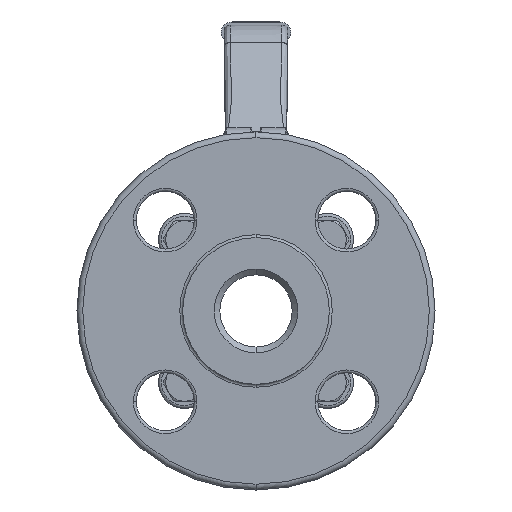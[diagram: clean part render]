
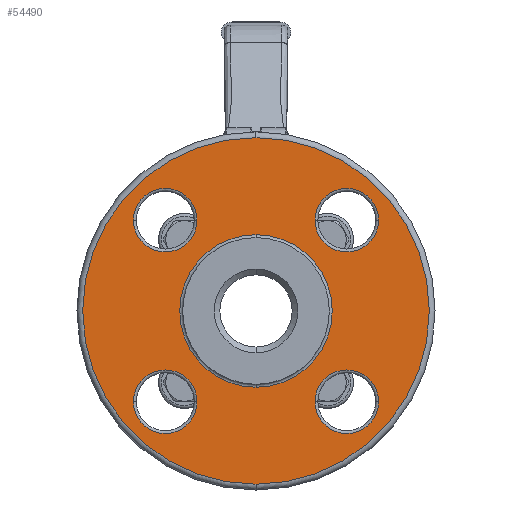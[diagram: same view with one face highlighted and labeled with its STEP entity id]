
A CAD part, left-side view. The second image highlights one B-rep face of the part: STEP entity #54490.
In plain terms, the highlighted planar face has unit normal (-1, 0, 0).
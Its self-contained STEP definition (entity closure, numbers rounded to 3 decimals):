
#55=CARTESIAN_POINT('',(-73.35,0.,0.));
#56=DIRECTION('',(-1.,0.,0.));
#57=DIRECTION('',(0.,0.,1.));
#58=AXIS2_PLACEMENT_3D('',#55,#56,#57);
#75=CARTESIAN_POINT('',(-73.35,0.,0.));
#76=DIRECTION('',(1.,0.,0.));
#77=DIRECTION('',(0.,0.,-1.));
#78=AXIS2_PLACEMENT_3D('',#75,#76,#77);
#98=CARTESIAN_POINT('',(-73.35,0.,0.));
#99=DIRECTION('',(1.,0.,0.));
#100=DIRECTION('',(0.,0.,1.));
#101=AXIS2_PLACEMENT_3D('',#98,#99,#100);
#44591=CARTESIAN_POINT('',(-73.35,31.431,31.431));
#44592=DIRECTION('',(1.,0.,0.));
#44593=DIRECTION('',(0.,1.,0.));
#44594=AXIS2_PLACEMENT_3D('',#44591,#44592,#44593);
#44606=CARTESIAN_POINT('',(-73.35,31.431,31.431));
#44607=DIRECTION('',(1.,0.,0.));
#44608=DIRECTION('',(0.,-1.,0.));
#44609=AXIS2_PLACEMENT_3D('',#44606,#44607,#44608);
#44659=CARTESIAN_POINT('',(-73.35,-31.431,31.431));
#44660=DIRECTION('',(1.,0.,0.));
#44661=DIRECTION('',(0.,-1.,0.));
#44662=AXIS2_PLACEMENT_3D('',#44659,#44660,#44661);
#44674=CARTESIAN_POINT('',(-73.35,-31.431,31.431));
#44675=DIRECTION('',(1.,0.,0.));
#44676=DIRECTION('',(0.,1.,0.));
#44677=AXIS2_PLACEMENT_3D('',#44674,#44675,#44676);
#44727=CARTESIAN_POINT('',(-73.35,-31.431,-31.431));
#44728=DIRECTION('',(1.,0.,0.));
#44729=DIRECTION('',(0.,1.,0.));
#44730=AXIS2_PLACEMENT_3D('',#44727,#44728,#44729);
#44742=CARTESIAN_POINT('',(-73.35,-31.431,-31.431));
#44743=DIRECTION('',(1.,0.,0.));
#44744=DIRECTION('',(0.,-1.,0.));
#44745=AXIS2_PLACEMENT_3D('',#44742,#44743,#44744);
#44795=CARTESIAN_POINT('',(-73.35,31.431,-31.431));
#44796=DIRECTION('',(1.,0.,0.));
#44797=DIRECTION('',(0.,-1.,0.));
#44798=AXIS2_PLACEMENT_3D('',#44795,#44796,#44797);
#44810=CARTESIAN_POINT('',(-73.35,31.431,-31.431));
#44811=DIRECTION('',(1.,0.,0.));
#44812=DIRECTION('',(0.,1.,0.));
#44813=AXIS2_PLACEMENT_3D('',#44810,#44811,#44812);
#44829=CARTESIAN_POINT('',(-73.35,0.,0.));
#44830=DIRECTION('',(-1.,0.,0.));
#44831=DIRECTION('',(0.,0.,-1.));
#44832=AXIS2_PLACEMENT_3D('',#44829,#44830,#44831);
#44860=CARTESIAN_POINT('',(-73.35,0.,-60.));
#44861=CARTESIAN_POINT('',(-73.35,0.,60.));
#44862=VERTEX_POINT('',#44860);
#44863=VERTEX_POINT('',#44861);
#45852=CARTESIAN_POINT('',(-73.35,42.431,31.431));
#45853=CARTESIAN_POINT('',(-73.35,20.431,31.431));
#45854=VERTEX_POINT('',#45852);
#45855=VERTEX_POINT('',#45853);
#45868=CARTESIAN_POINT('',(-73.35,-42.431,31.431));
#45869=CARTESIAN_POINT('',(-73.35,-20.431,31.431));
#45870=VERTEX_POINT('',#45868);
#45871=VERTEX_POINT('',#45869);
#45884=CARTESIAN_POINT('',(-73.35,-20.431,-31.431));
#45885=CARTESIAN_POINT('',(-73.35,-42.431,-31.431));
#45886=VERTEX_POINT('',#45884);
#45887=VERTEX_POINT('',#45885);
#45900=CARTESIAN_POINT('',(-73.35,42.431,-31.431));
#45901=CARTESIAN_POINT('',(-73.35,20.431,-31.431));
#45902=VERTEX_POINT('',#45900);
#45903=VERTEX_POINT('',#45901);
#46632=CARTESIAN_POINT('',(-73.35,0.,26.4));
#46633=CARTESIAN_POINT('',(-73.35,0.,-26.4));
#46634=VERTEX_POINT('',#46632);
#46635=VERTEX_POINT('',#46633);
#54450=CARTESIAN_POINT('',(-73.35,0.,0.));
#54451=DIRECTION('',(-1.,0.,0.));
#54452=DIRECTION('',(0.,0.,1.));
#54453=AXIS2_PLACEMENT_3D('',#54450,#54451,#54452);
#54454=PLANE('',#54453);
#54456=ORIENTED_EDGE('',*,*,#54455,.T.);
#54458=ORIENTED_EDGE('',*,*,#54457,.T.);
#54459=EDGE_LOOP('',(#54456,#54458));
#54460=FACE_OUTER_BOUND('',#54459,.F.);
#54461=ORIENTED_EDGE('',*,*,#54440,.T.);
#54463=ORIENTED_EDGE('',*,*,#54462,.T.);
#54464=EDGE_LOOP('',(#54461,#54463));
#54465=FACE_BOUND('',#54464,.F.);
#54467=ORIENTED_EDGE('',*,*,#54466,.F.);
#54469=ORIENTED_EDGE('',*,*,#54468,.F.);
#54470=EDGE_LOOP('',(#54467,#54469));
#54471=FACE_BOUND('',#54470,.F.);
#54473=ORIENTED_EDGE('',*,*,#54472,.F.);
#54475=ORIENTED_EDGE('',*,*,#54474,.F.);
#54476=EDGE_LOOP('',(#54473,#54475));
#54477=FACE_BOUND('',#54476,.F.);
#54479=ORIENTED_EDGE('',*,*,#54478,.F.);
#54481=ORIENTED_EDGE('',*,*,#54480,.F.);
#54482=EDGE_LOOP('',(#54479,#54481));
#54483=FACE_BOUND('',#54482,.F.);
#54485=ORIENTED_EDGE('',*,*,#54484,.F.);
#54487=ORIENTED_EDGE('',*,*,#54486,.F.);
#54488=EDGE_LOOP('',(#54485,#54487));
#54489=FACE_BOUND('',#54488,.F.);
#54490=ADVANCED_FACE('',(#54460,#54465,#54471,#54477,#54483,#54489),#54454,.T.);
#59=CIRCLE('',#58,26.4);
#79=CIRCLE('',#78,60.);
#102=CIRCLE('',#101,60.);
#44595=CIRCLE('',#44594,11.);
#44610=CIRCLE('',#44609,11.);
#44663=CIRCLE('',#44662,11.);
#44678=CIRCLE('',#44677,11.);
#44731=CIRCLE('',#44730,11.);
#44746=CIRCLE('',#44745,11.);
#44799=CIRCLE('',#44798,11.);
#44814=CIRCLE('',#44813,11.);
#44833=CIRCLE('',#44832,26.4);
#54440=EDGE_CURVE('',#46634,#46635,#59,.T.);
#54455=EDGE_CURVE('',#44862,#44863,#79,.T.);
#54457=EDGE_CURVE('',#44863,#44862,#102,.T.);
#54462=EDGE_CURVE('',#46635,#46634,#44833,.T.);
#54466=EDGE_CURVE('',#45854,#45855,#44595,.T.);
#54468=EDGE_CURVE('',#45855,#45854,#44610,.T.);
#54472=EDGE_CURVE('',#45870,#45871,#44663,.T.);
#54474=EDGE_CURVE('',#45871,#45870,#44678,.T.);
#54478=EDGE_CURVE('',#45886,#45887,#44731,.T.);
#54480=EDGE_CURVE('',#45887,#45886,#44746,.T.);
#54484=EDGE_CURVE('',#45902,#45903,#44814,.T.);
#54486=EDGE_CURVE('',#45903,#45902,#44799,.T.);
